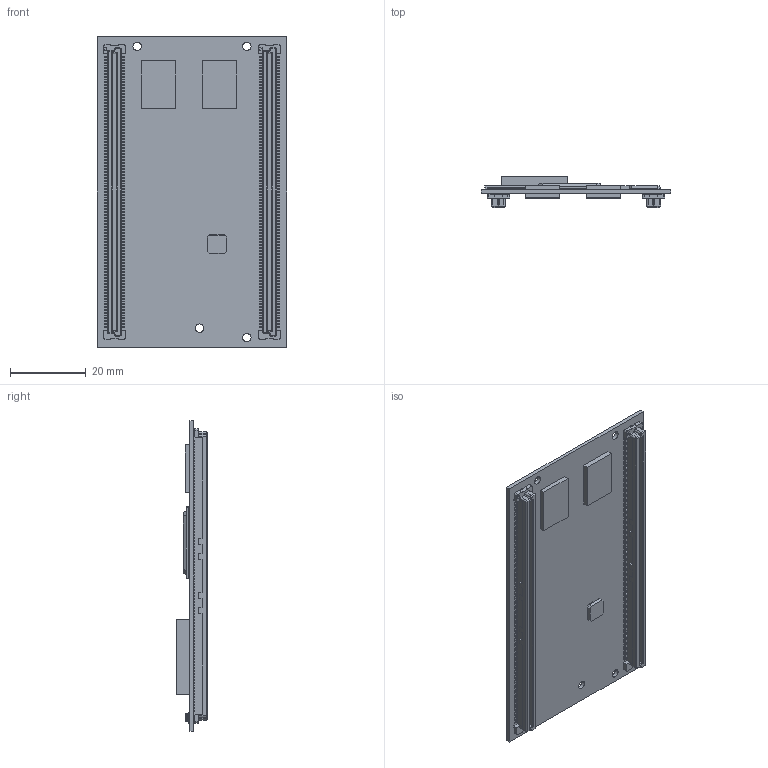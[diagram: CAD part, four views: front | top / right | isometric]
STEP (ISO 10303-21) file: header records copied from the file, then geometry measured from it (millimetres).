
FILE_DESCRIPTION((''),'2;1');
FILE_NAME('55001604_PCBA_WI-IMX53','2012-03-05T',('mlarsen'),(''),'PRO/ENGINEER BY PARAMETRIC TECHNOLOGY CORPORATION, 2011310','PRO/ENGINEER BY PARAMETRIC TECHNOLOGY CORPORATION, 2011310','');
FILE_SCHEMA(('CONFIG_CONTROL_DESIGN'));
Products named in the file (1): 55001604_PCBA_WI-IMX53
Bounding box: 50.01 x 8.34 x 81.99 mm (x, y, z)
Volume: 8367.9 mm3; surface area: 12985.8 mm2
Topology: 2 solids, 2 shells, 2394 faces, 8075 edges, 5350 vertices
Faces by surface type: plane 2243, cylinder 93, cone 36, torus 10, sphere 8, bspline 4
Entity records: 87963 total; most frequent: CARTESIAN_POINT 16409, ORIENTED_EDGE 16134, DIRECTION 13063, EDGE_CURVE 8067, VECTOR 7803, LINE 7803, VERTEX_POINT 5350, EDGE_LOOP 2803
